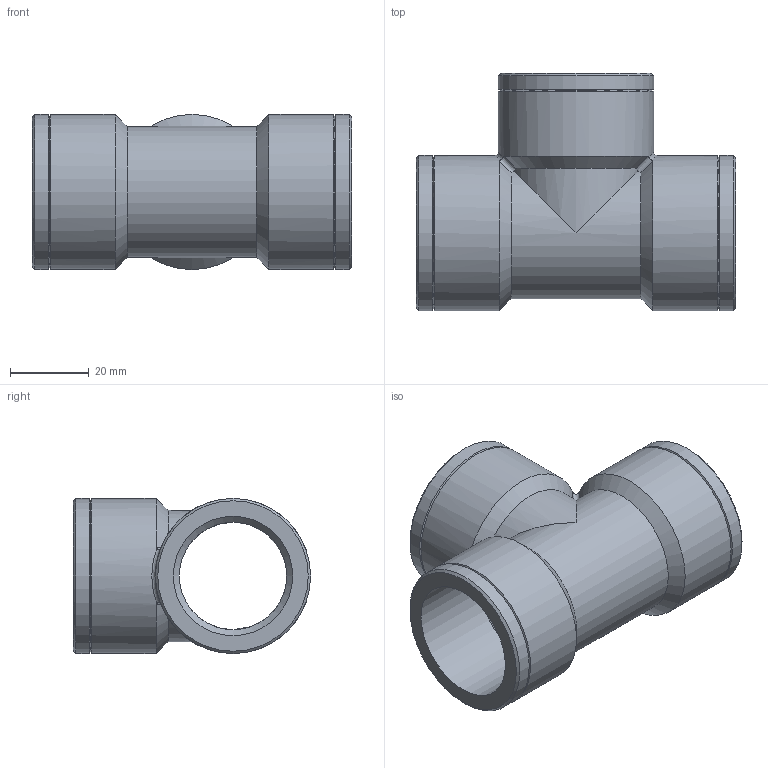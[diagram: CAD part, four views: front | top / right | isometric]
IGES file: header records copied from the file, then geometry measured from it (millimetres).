
Global section: file name: 050407010_0504070100A.ipt; native system: Autodesk Inventor 2015; preprocessor: unknown; author: KIM; date: 20170618.093201; units: millimetre
Bounding box: 81 x 60.19 x 39.38 mm (x, y, z)
Volume: 43758.8 mm3; surface area: 23291.1 mm2
Topology: 1 solids, 1 shells, 39 faces, 108 edges, 70 vertices
Faces by surface type: cone 13, cylinder 9, revolution 8, bspline 6, plane 3
Full cylindrical faces by diameter (mm): 39.378 x6
